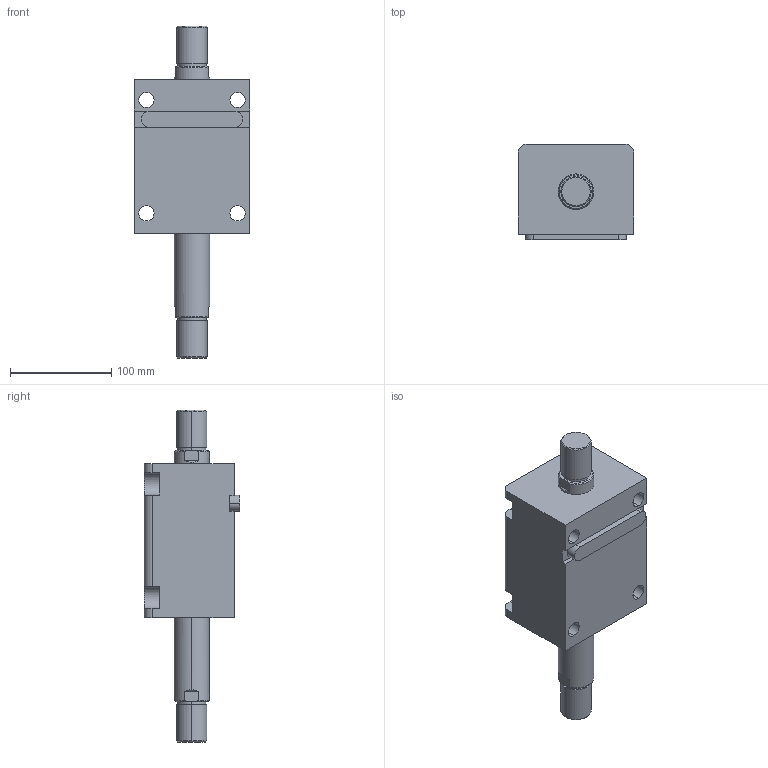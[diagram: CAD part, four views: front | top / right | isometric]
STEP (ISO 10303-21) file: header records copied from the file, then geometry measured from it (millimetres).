
FILE_DESCRIPTION (( 'STEP AP203' ), '1' );
FILE_NAME ('HTB-LW63-70W.STEP', '2019-10-09T08:28:16', ( '微软用户' ), ( '微软中国' ), 'SwSTEP 2.0', 'SolidWorks 2012', '' );
FILE_SCHEMA (( 'CONFIG_CONTROL_DESIGN' ));
Length unit declared in the file: millimetre
Products named in the file (4): HTB-LW63-70W; HTB-LA63-瑩; HTB-LW63-70W活塞杆; HTB-LW63-70掛极
Assembly tree (3 placements, depth 2):
  HTB-LW63-70W
    HTB-LW63-70掛极
    HTB-LW63-70W活塞杆
    HTB-LA63-瑩
Bounding box: 114 x 94.5 x 328 mm (x, y, z)
Volume: 1459955.1 mm3; surface area: 172650 mm2
Topology: 3 solids, 3 shells, 109 faces, 265 edges, 174 vertices
Faces by surface type: plane 48, cylinder 45, cone 12, torus 4
Entity records: 3679 total; most frequent: CARTESIAN_POINT 610, DIRECTION 593, ORIENTED_EDGE 530, EDGE_CURVE 265, AXIS2_PLACEMENT_3D 229, VERTEX_POINT 174, VECTOR 135, LINE 135
